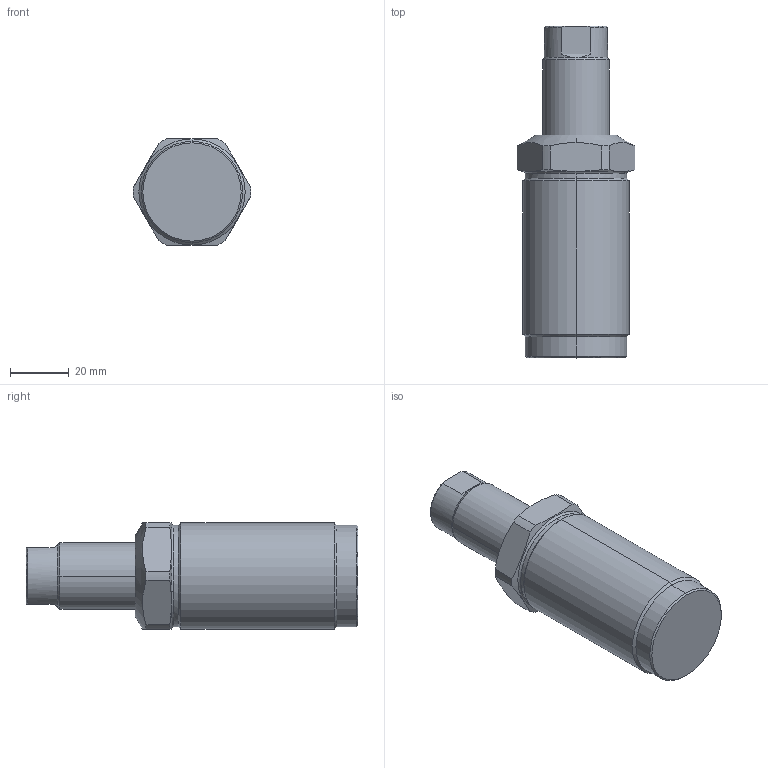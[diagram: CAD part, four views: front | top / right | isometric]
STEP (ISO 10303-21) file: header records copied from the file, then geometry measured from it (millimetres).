
FILE_DESCRIPTION((' '),'2;1');
FILE_NAME( 'TGM10-25.x_t.stp', '2024-08-27T13:43:51', (' '), ('--- Datakit www.datakit.com---'), ' Datakit CrossCadWare V2024.1 Dec 21 2023', 'Mastercam 2025', ' ');
FILE_SCHEMA(('AUTOMOTIVE_DESIGN { 1 0 10303 214 1 1 1 1 }'));
Length unit declared in the file: millimetre
Products named in the file (1): TGM10-25
Bounding box: 39.99 x 112.5 x 36 mm (x, y, z)
Volume: 79585 mm3; surface area: 15983.8 mm2
Topology: 2 solids, 2 shells, 58 faces, 140 edges, 87 vertices
Faces by surface type: cylinder 22, cone 18, plane 16, torus 2
Entity records: 1827 total; most frequent: CARTESIAN_POINT 432, DIRECTION 304, ORIENTED_EDGE 276, EDGE_CURVE 138, AXIS2_PLACEMENT_3D 127, VERTEX_POINT 87, CIRCLE 62, EDGE_LOOP 61
